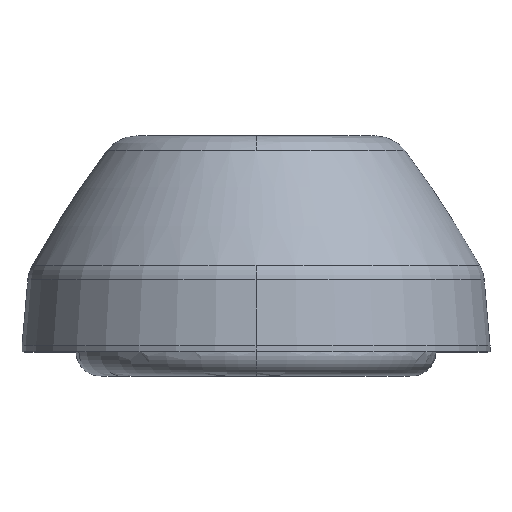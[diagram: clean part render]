
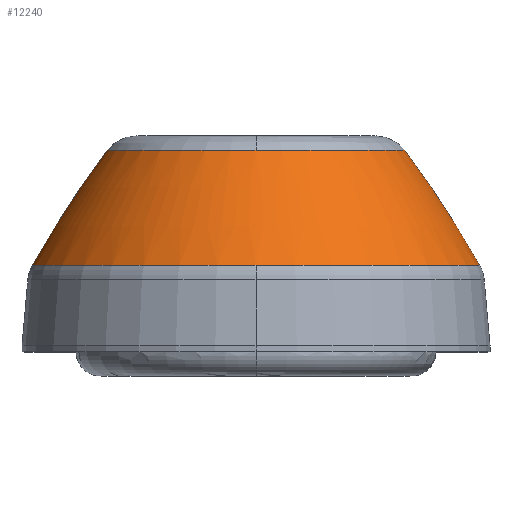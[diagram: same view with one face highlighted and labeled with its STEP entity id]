
A CAD part, top view. The second image highlights one B-rep face of the part: STEP entity #12240.
In plain terms, the highlighted toroidal (fillet/blend) face has major radius 59.745 mm and minor radius 90 mm.
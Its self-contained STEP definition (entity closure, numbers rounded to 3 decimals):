
#15 = ORIENTED_EDGE ( 'NONE', *, *, #6630, .T. ) ;
#660 = ORIENTED_EDGE ( 'NONE', *, *, #14114, .T. ) ;
#1042 = TOROIDAL_SURFACE ( 'NONE', #17989, -59.745, 90. ) ;
#1325 = AXIS2_PLACEMENT_3D ( 'NONE', #4133, #15708, #5792 ) ;
#2104 = ORIENTED_EDGE ( 'NONE', *, *, #19123, .T. ) ;
#2183 = VERTEX_POINT ( 'NONE', #11388 ) ;
#2626 = CARTESIAN_POINT ( 'NONE',  ( 0., 15.793, 0. ) ) ;
#3069 = CIRCLE ( 'NONE', #8284, 18.643 ) ;
#4133 = CARTESIAN_POINT ( 'NONE',  ( 0., 6.212, 0. ) ) ;
#4326 = DIRECTION ( 'NONE',  ( 1., 0., 0. ) ) ;
#4815 = CARTESIAN_POINT ( 'NONE',  ( -18.643, 6.212, 0. ) ) ;
#4817 = EDGE_LOOP ( 'NONE', ( #15, #11785, #5191, #660, #18856, #2104 ) ) ;
#5191 = ORIENTED_EDGE ( 'NONE', *, *, #11771, .T. ) ;
#5640 = DIRECTION ( 'NONE',  ( 0., -1., 0. ) ) ;
#5750 = AXIS2_PLACEMENT_3D ( 'NONE', #17596, #7686, #19218 ) ;
#5792 = DIRECTION ( 'NONE',  ( -1., 0., 0. ) ) ;
#6630 = EDGE_CURVE ( 'NONE', #10963, #6799, #9418, .T. ) ;
#6799 = VERTEX_POINT ( 'NONE', #17844 ) ;
#6954 = CARTESIAN_POINT ( 'NONE',  ( 0., 6.212, 18.643 ) ) ;
#7197 = DIRECTION ( 'NONE',  ( 0., 1., 0. ) ) ;
#7686 = DIRECTION ( 'NONE',  ( 0., 0., -1. ) ) ;
#7841 = CARTESIAN_POINT ( 'NONE',  ( -59.745, -38.006, 0. ) ) ;
#8284 = AXIS2_PLACEMENT_3D ( 'NONE', #19494, #9617, #21164 ) ;
#8411 = CIRCLE ( 'NONE', #14837, 12.405 ) ;
#8810 = CARTESIAN_POINT ( 'NONE',  ( 0., -38.006, 0. ) ) ;
#9418 = CIRCLE ( 'NONE', #1325, 18.643 ) ;
#9484 = DIRECTION ( 'NONE',  ( 1., 0., 0. ) ) ;
#9617 = DIRECTION ( 'NONE',  ( 0., 1., 0. ) ) ;
#9700 = EDGE_CURVE ( 'NONE', #16642, #12209, #13930, .T. ) ;
#10963 = VERTEX_POINT ( 'NONE', #6954 ) ;
#11388 = CARTESIAN_POINT ( 'NONE',  ( 12.405, 15.793, 0. ) ) ;
#11771 = EDGE_CURVE ( 'NONE', #2183, #16829, #8411, .T. ) ;
#11785 = ORIENTED_EDGE ( 'NONE', *, *, #16966, .T. ) ;
#12209 = VERTEX_POINT ( 'NONE', #15424 ) ;
#12240 = ADVANCED_FACE ( 'NONE', ( #15405 ), #1042, .T. ) ;
#13576 = CARTESIAN_POINT ( 'NONE',  ( 0., 15.793, 12.405 ) ) ;
#13930 = CIRCLE ( 'NONE', #5750, 90. ) ;
#14114 = EDGE_CURVE ( 'NONE', #16829, #12209, #15535, .T. ) ;
#14257 = DIRECTION ( 'NONE',  ( 0., -1., 0. ) ) ;
#14837 = AXIS2_PLACEMENT_3D ( 'NONE', #15569, #5640, #17212 ) ;
#14859 = AXIS2_PLACEMENT_3D ( 'NONE', #2626, #14257, #4326 ) ;
#15195 = AXIS2_PLACEMENT_3D ( 'NONE', #7841, #19360, #9484 ) ;
#15405 = FACE_OUTER_BOUND ( 'NONE', #4817, .T. ) ;
#15424 = CARTESIAN_POINT ( 'NONE',  ( -12.405, 15.793, 0. ) ) ;
#15535 = CIRCLE ( 'NONE', #14859, 12.405 ) ;
#15569 = CARTESIAN_POINT ( 'NONE',  ( 0., 15.793, 0. ) ) ;
#15708 = DIRECTION ( 'NONE',  ( 0., 1., 0. ) ) ;
#16642 = VERTEX_POINT ( 'NONE', #4815 ) ;
#16829 = VERTEX_POINT ( 'NONE', #13576 ) ;
#16966 = EDGE_CURVE ( 'NONE', #6799, #2183, #21004, .T. ) ;
#17212 = DIRECTION ( 'NONE',  ( 1., 0., 0. ) ) ;
#17596 = CARTESIAN_POINT ( 'NONE',  ( 59.745, -38.006, 0. ) ) ;
#17844 = CARTESIAN_POINT ( 'NONE',  ( 18.643, 6.212, 0. ) ) ;
#17989 = AXIS2_PLACEMENT_3D ( 'NONE', #8810, #7197, #18759 ) ;
#18759 = DIRECTION ( 'NONE',  ( -1., 0., 0. ) ) ;
#18856 = ORIENTED_EDGE ( 'NONE', *, *, #9700, .F. ) ;
#19123 = EDGE_CURVE ( 'NONE', #16642, #10963, #3069, .T. ) ;
#19218 = DIRECTION ( 'NONE',  ( -1., 0., 0. ) ) ;
#19360 = DIRECTION ( 'NONE',  ( 0., 0., 1. ) ) ;
#19494 = CARTESIAN_POINT ( 'NONE',  ( 0., 6.212, 0. ) ) ;
#21004 = CIRCLE ( 'NONE', #15195, 90. ) ;
#21164 = DIRECTION ( 'NONE',  ( -1., 0., 0. ) ) ;
